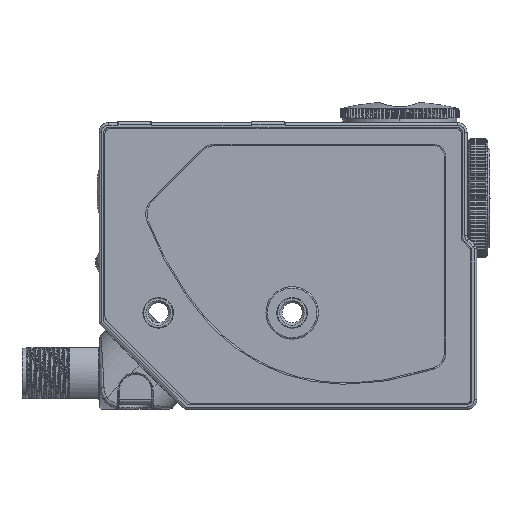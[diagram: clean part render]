
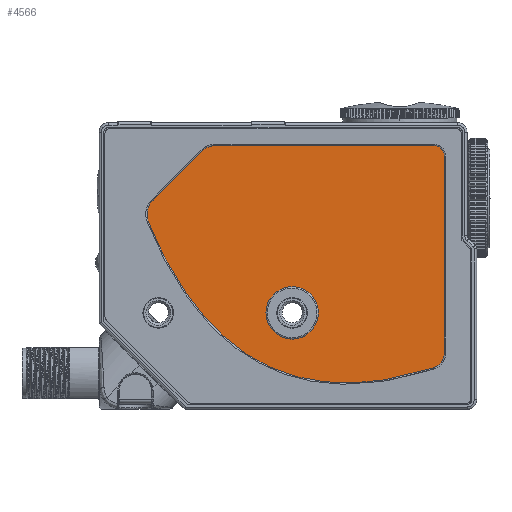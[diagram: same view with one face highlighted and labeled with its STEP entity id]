
A CAD part, front view. The second image highlights one B-rep face of the part: STEP entity #4566.
In plain terms, the highlighted planar face has unit normal (0, -1, 0).
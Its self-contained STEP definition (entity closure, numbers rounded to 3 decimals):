
#3586=PLANE('',#29587);
#4566=ADVANCED_FACE('',(#9767,#9768),#3586,.T.);
#7474=B_SPLINE_CURVE_WITH_KNOTS('',3,(#62072,#62073,#62074,#62075,#62076,
#62077,#62078,#62079,#62080,#62081,#62082,#62083,#62084,#62085),.UNSPECIFIED.,
 .F.,.F.,(4,2,2,2,2,2,4),(0.,0.25,0.375,0.5,0.625,0.75,1.),.UNSPECIFIED.);
#9767=FACE_BOUND('',#10553,.T.);
#9768=FACE_BOUND('',#10554,.T.);
#10553=EDGE_LOOP('',(#14983));
#10554=EDGE_LOOP('',(#14984,#14985,#14986,#14987,#14988,#14989,#14990,#14991));
#14983=ORIENTED_EDGE('',*,*,#25298,.F.);
#14984=ORIENTED_EDGE('',*,*,#25290,.F.);
#14985=ORIENTED_EDGE('',*,*,#25269,.F.);
#14986=ORIENTED_EDGE('',*,*,#25273,.F.);
#14987=ORIENTED_EDGE('',*,*,#25276,.F.);
#14988=ORIENTED_EDGE('',*,*,#25279,.F.);
#14989=ORIENTED_EDGE('',*,*,#25282,.F.);
#14990=ORIENTED_EDGE('',*,*,#25285,.F.);
#14991=ORIENTED_EDGE('',*,*,#25288,.F.);
#21842=VERTEX_POINT('',#61989);
#21843=VERTEX_POINT('',#61991);
#21846=VERTEX_POINT('',#62007);
#21848=VERTEX_POINT('',#62021);
#21850=VERTEX_POINT('',#62033);
#21852=VERTEX_POINT('',#62045);
#21854=VERTEX_POINT('',#62057);
#21856=VERTEX_POINT('',#62071);
#21857=VERTEX_POINT('',#62234);
#25269=EDGE_CURVE('',#21842,#21843,#28541,.T.);
#25273=EDGE_CURVE('',#21846,#21842,#28293,.T.);
#25276=EDGE_CURVE('',#21848,#21846,#28542,.T.);
#25279=EDGE_CURVE('',#21850,#21848,#28294,.T.);
#25282=EDGE_CURVE('',#21852,#21850,#28543,.T.);
#25285=EDGE_CURVE('',#21854,#21852,#28295,.T.);
#25288=EDGE_CURVE('',#21856,#21854,#7474,.T.);
#25290=EDGE_CURVE('',#21843,#21856,#28296,.T.);
#25298=EDGE_CURVE('',#21857,#21857,#28297,.T.);
#28293=CIRCLE('',#29569,2.267);
#28294=CIRCLE('',#29572,4.267);
#28295=CIRCLE('',#29575,4.267);
#28296=CIRCLE('',#29577,3.267);
#28297=CIRCLE('',#29586,5.483);
#28541=LINE('',#61990,#28772);
#28542=LINE('',#62022,#28773);
#28543=LINE('',#62046,#28774);
#28772=VECTOR('',#31664,1.);
#28773=VECTOR('',#31671,1.);
#28774=VECTOR('',#31678,1.);
#29569=AXIS2_PLACEMENT_3D('',#62008,#31667,#31668);
#29572=AXIS2_PLACEMENT_3D('',#62034,#31674,#31675);
#29575=AXIS2_PLACEMENT_3D('',#62058,#31681,#31682);
#29577=AXIS2_PLACEMENT_3D('',#62194,#31685,#31686);
#29586=AXIS2_PLACEMENT_3D('',#62233,#31703,#31704);
#29587=AXIS2_PLACEMENT_3D('',#62235,#31705,#31706);
#31664=DIRECTION('',(0.,0.,-1.));
#31667=DIRECTION('',(0.,1.,0.));
#31668=DIRECTION('',(0.,0.,1.));
#31671=DIRECTION('',(1.,0.,0.));
#31674=DIRECTION('',(0.,1.,0.));
#31675=DIRECTION('',(0.,0.,1.));
#31678=DIRECTION('',(0.707,0.,0.707));
#31681=DIRECTION('',(0.,1.,0.));
#31682=DIRECTION('',(0.,0.,1.));
#31685=DIRECTION('',(0.,1.,0.));
#31686=DIRECTION('',(0.,0.,1.));
#31703=DIRECTION('',(0.,-1.,0.));
#31704=DIRECTION('',(0.,0.,-1.));
#31705=DIRECTION('',(0.,-1.,0.));
#31706=DIRECTION('',(0.,0.,-1.));
#61989=CARTESIAN_POINT('',(33.718,0.2,22.946));
#61990=CARTESIAN_POINT('',(33.718,0.2,22.946));
#61991=CARTESIAN_POINT('',(33.718,0.2,-18.202));
#62007=CARTESIAN_POINT('',(31.451,0.2,25.213));
#62008=CARTESIAN_POINT('',(31.451,0.2,22.946));
#62021=CARTESIAN_POINT('',(-14.032,0.2,25.213));
#62022=CARTESIAN_POINT('',(-14.032,0.2,25.213));
#62033=CARTESIAN_POINT('',(-17.049,0.2,23.964));
#62034=CARTESIAN_POINT('',(-14.032,0.2,20.946));
#62045=CARTESIAN_POINT('',(-27.193,0.2,13.82));
#62046=CARTESIAN_POINT('',(-27.193,0.2,13.82));
#62057=CARTESIAN_POINT('',(-28.119,0.2,9.17));
#62058=CARTESIAN_POINT('',(-24.176,0.2,10.802));
#62071=CARTESIAN_POINT('',(31.451,0.2,-21.312));
#62072=CARTESIAN_POINT('',(31.451,0.2,-21.312));
#62073=CARTESIAN_POINT('',(25.462,0.2,-23.237));
#62074=CARTESIAN_POINT('',(19.214,0.2,-24.498));
#62075=CARTESIAN_POINT('',(9.781,0.2,-24.433));
#62076=CARTESIAN_POINT('',(6.634,0.2,-24.08));
#62077=CARTESIAN_POINT('',(0.53,0.2,-22.568));
#62078=CARTESIAN_POINT('',(-2.426,0.2,-21.416));
#62079=CARTESIAN_POINT('',(-7.932,0.2,-18.38));
#62080=CARTESIAN_POINT('',(-10.479,0.2,-16.495));
#62081=CARTESIAN_POINT('',(-15.104,0.2,-12.232));
#62082=CARTESIAN_POINT('',(-17.183,0.2,-9.854));
#62083=CARTESIAN_POINT('',(-22.791,0.2,-2.267));
#62084=CARTESIAN_POINT('',(-25.713,0.2,3.358));
#62085=CARTESIAN_POINT('',(-28.119,0.2,9.17));
#62194=CARTESIAN_POINT('',(30.451,0.2,-18.202));
#62233=CARTESIAN_POINT('',(1.9,0.2,-9.8));
#62234=CARTESIAN_POINT('',(1.9,0.2,-15.283));
#62235=CARTESIAN_POINT('',(-37.207,0.2,28.707));
